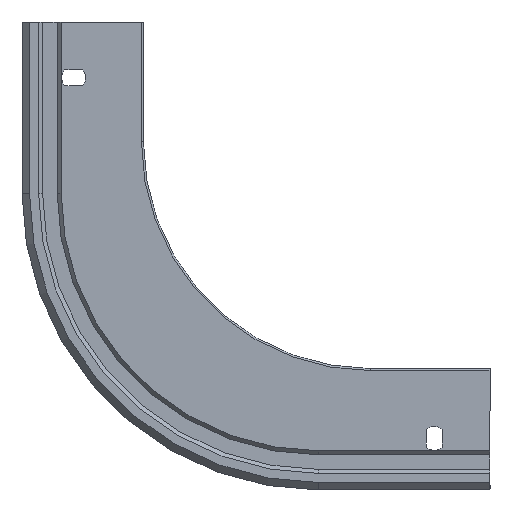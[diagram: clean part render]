
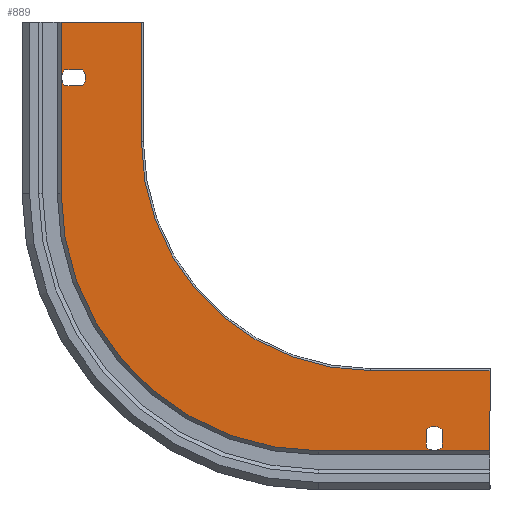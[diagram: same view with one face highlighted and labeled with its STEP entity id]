
A CAD part, left-side view. The second image highlights one B-rep face of the part: STEP entity #889.
In plain terms, the highlighted planar face has unit normal (-1, 0, 0).
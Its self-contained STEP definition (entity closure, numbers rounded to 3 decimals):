
#103 = VERTEX_POINT ( 'NONE', #392 ) ;
#143 = LINE ( 'NONE', #3380, #879 ) ;
#145 = EDGE_LOOP ( 'NONE', ( #5373, #5433, #5398, #489 ) ) ;
#153 = LINE ( 'NONE', #3810, #998 ) ;
#193 = DIRECTION ( 'NONE',  ( 0., 1., 0. ) ) ;
#238 = CARTESIAN_POINT ( 'NONE',  ( 0., 86., 0.331 ) ) ;
#297 = CARTESIAN_POINT ( 'NONE',  ( 0., 175.2, -215.2 ) ) ;
#389 = DIRECTION ( 'NONE',  ( 1., 0., 0. ) ) ;
#392 = CARTESIAN_POINT ( 'NONE',  ( 0., 32., -10.472 ) ) ;
#405 = VERTEX_POINT ( 'NONE', #2943 ) ;
#429 = CARTESIAN_POINT ( 'NONE',  ( 0., 32., 0. ) ) ;
#456 = CARTESIAN_POINT ( 'NONE',  ( 0., 24., -10.472 ) ) ;
#477 = DIRECTION ( 'NONE',  ( 1., 0., 0. ) ) ;
#489 = ORIENTED_EDGE ( 'NONE', *, *, #3196, .T. ) ;
#514 = CIRCLE ( 'NONE', #711, 129.531 ) ;
#515 = VECTOR ( 'NONE', #3443, 1000. ) ;
#540 = AXIS2_PLACEMENT_3D ( 'NONE', #4398, #3953, #5229 ) ;
#569 = DIRECTION ( 'NONE',  ( 1., 0., 0. ) ) ;
#595 = FACE_BOUND ( 'NONE', #4445, .T. ) ;
#599 = CARTESIAN_POINT ( 'NONE',  ( 0., 0., -191.2 ) ) ;
#636 = CARTESIAN_POINT ( 'NONE',  ( 0., 28., -6. ) ) ;
#659 = EDGE_CURVE ( 'NONE', #2829, #103, #3308, .T. ) ;
#681 = LINE ( 'NONE', #4318, #4886 ) ;
#711 = AXIS2_PLACEMENT_3D ( 'NONE', #1598, #3891, #2040 ) ;
#744 = DIRECTION ( 'NONE',  ( 1., 0., 0. ) ) ;
#803 = CARTESIAN_POINT ( 'NONE',  ( 0., 174.2, -215.2 ) ) ;
#819 = VERTEX_POINT ( 'NONE', #5610 ) ;
#841 = EDGE_CURVE ( 'NONE', #405, #2823, #1530, .T. ) ;
#879 = VECTOR ( 'NONE', #1474, 1000. ) ;
#881 = ORIENTED_EDGE ( 'NONE', *, *, #659, .T. ) ;
#889 = ADVANCED_FACE ( 'NONE', ( #595, #5641, #2942 ), #4750, .F. ) ;
#897 = EDGE_CURVE ( 'NONE', #4916, #4741, #143, .T. ) ;
#964 = EDGE_CURVE ( 'NONE', #4460, #3805, #5766, .T. ) ;
#998 = VECTOR ( 'NONE', #1542, 1000. ) ;
#1002 = VERTEX_POINT ( 'NONE', #1659 ) ;
#1027 = EDGE_CURVE ( 'NONE', #1303, #5533, #3414, .T. ) ;
#1093 = VECTOR ( 'NONE', #2554, 1000. ) ;
#1099 = EDGE_CURVE ( 'NONE', #4504, #4916, #2150, .T. ) ;
#1139 = CARTESIAN_POINT ( 'NONE',  ( 0., 204.728, -191.2 ) ) ;
#1143 = CARTESIAN_POINT ( 'NONE',  ( 0., 0., 0. ) ) ;
#1288 = AXIS2_PLACEMENT_3D ( 'NONE', #3146, #2701, #3207 ) ;
#1303 = VERTEX_POINT ( 'NONE', #5154 ) ;
#1377 = EDGE_CURVE ( 'NONE', #5336, #405, #1807, .T. ) ;
#1474 = DIRECTION ( 'NONE',  ( 0., 0., -1. ) ) ;
#1498 = CARTESIAN_POINT ( 'NONE',  ( 0., 215.531, -215.2 ) ) ;
#1530 = LINE ( 'NONE', #2819, #5837 ) ;
#1536 = LINE ( 'NONE', #599, #3455 ) ;
#1542 = DIRECTION ( 'NONE',  ( 0., -1., 0. ) ) ;
#1598 = CARTESIAN_POINT ( 'NONE',  ( 0., 86., -129.2 ) ) ;
#1631 = EDGE_CURVE ( 'NONE', #1002, #819, #5432, .T. ) ;
#1659 = CARTESIAN_POINT ( 'NONE',  ( 0., 213.672, -191.2 ) ) ;
#1807 = CIRCLE ( 'NONE', #5133, 6. ) ;
#1858 = CIRCLE ( 'NONE', #4907, 6. ) ;
#1992 = EDGE_CURVE ( 'NONE', #4741, #3805, #5765, .T. ) ;
#2040 = DIRECTION ( 'NONE',  ( 0., 0., 1. ) ) ;
#2052 = VECTOR ( 'NONE', #2827, 1000. ) ;
#2096 = CARTESIAN_POINT ( 'NONE',  ( 0., 28., -6. ) ) ;
#2120 = ORIENTED_EDGE ( 'NONE', *, *, #964, .T. ) ;
#2122 = ORIENTED_EDGE ( 'NONE', *, *, #5563, .T. ) ;
#2130 = DIRECTION ( 'NONE',  ( 0., 1., 0. ) ) ;
#2150 = CIRCLE ( 'NONE', #1288, 115.2 ) ;
#2201 = CARTESIAN_POINT ( 'NONE',  ( 0., 60., -40. ) ) ;
#2202 = LINE ( 'NONE', #429, #2461 ) ;
#2310 = CARTESIAN_POINT ( 'NONE',  ( 0., 28., -6. ) ) ;
#2350 = CARTESIAN_POINT ( 'NONE',  ( 0., 86., 0.331 ) ) ;
#2420 = EDGE_CURVE ( 'NONE', #5533, #4504, #681, .T. ) ;
#2428 = DIRECTION ( 'NONE',  ( 0., 0., -1. ) ) ;
#2432 = DIRECTION ( 'NONE',  ( 0., 1., 0. ) ) ;
#2454 = DIRECTION ( 'NONE',  ( 0., 0., -1. ) ) ;
#2461 = VECTOR ( 'NONE', #2744, 1000. ) ;
#2465 = ORIENTED_EDGE ( 'NONE', *, *, #897, .F. ) ;
#2554 = DIRECTION ( 'NONE',  ( 0., 0., -1. ) ) ;
#2678 = DIRECTION ( 'NONE',  ( 0., 0., -1. ) ) ;
#2701 = DIRECTION ( 'NONE',  ( -1., 0., 0. ) ) ;
#2706 = AXIS2_PLACEMENT_3D ( 'NONE', #5525, #569, #2428 ) ;
#2715 = CARTESIAN_POINT ( 'NONE',  ( 0., 28., -12. ) ) ;
#2744 = DIRECTION ( 'NONE',  ( 0., 0., 1. ) ) ;
#2746 = AXIS2_PLACEMENT_3D ( 'NONE', #2310, #477, #2678 ) ;
#2793 = DIRECTION ( 'NONE',  ( 0., 0., -1. ) ) ;
#2819 = CARTESIAN_POINT ( 'NONE',  ( 0., 24., 0. ) ) ;
#2823 = VERTEX_POINT ( 'NONE', #456 ) ;
#2827 = DIRECTION ( 'NONE',  ( 0., -1., 0. ) ) ;
#2829 = VERTEX_POINT ( 'NONE', #2715 ) ;
#2887 = DIRECTION ( 'NONE',  ( 0., 0., -1. ) ) ;
#2913 = EDGE_CURVE ( 'NONE', #103, #5336, #2202, .T. ) ;
#2923 = LINE ( 'NONE', #2350, #2052 ) ;
#2942 = FACE_OUTER_BOUND ( 'NONE', #5477, .T. ) ;
#2943 = CARTESIAN_POINT ( 'NONE',  ( 0., 24., -1.528 ) ) ;
#2976 = CARTESIAN_POINT ( 'NONE',  ( 0., 0., -40. ) ) ;
#3100 = VERTEX_POINT ( 'NONE', #238 ) ;
#3146 = CARTESIAN_POINT ( 'NONE',  ( 0., 60., -155.2 ) ) ;
#3196 = EDGE_CURVE ( 'NONE', #3275, #5177, #5695, .T. ) ;
#3207 = DIRECTION ( 'NONE',  ( 0., 0., 1. ) ) ;
#3223 = ORIENTED_EDGE ( 'NONE', *, *, #4198, .F. ) ;
#3275 = VERTEX_POINT ( 'NONE', #5774 ) ;
#3308 = CIRCLE ( 'NONE', #2746, 6. ) ;
#3380 = CARTESIAN_POINT ( 'NONE',  ( 0., 175.2, -155.2 ) ) ;
#3414 = LINE ( 'NONE', #1143, #515 ) ;
#3443 = DIRECTION ( 'NONE',  ( 0., 0., -1. ) ) ;
#3455 = VECTOR ( 'NONE', #2432, 1000. ) ;
#3620 = CARTESIAN_POINT ( 'NONE',  ( 0., 175.2, -155.2 ) ) ;
#3805 = VERTEX_POINT ( 'NONE', #1498 ) ;
#3810 = CARTESIAN_POINT ( 'NONE',  ( 0., 0., -183.2 ) ) ;
#3820 = ORIENTED_EDGE ( 'NONE', *, *, #1377, .T. ) ;
#3829 = DIRECTION ( 'NONE',  ( 0., 0., -1. ) ) ;
#3891 = DIRECTION ( 'NONE',  ( -1., 0., 0. ) ) ;
#3953 = DIRECTION ( 'NONE',  ( 1., 0., 0. ) ) ;
#4012 = CARTESIAN_POINT ( 'NONE',  ( 0., 215.531, -129.2 ) ) ;
#4113 = ORIENTED_EDGE ( 'NONE', *, *, #2913, .T. ) ;
#4198 = EDGE_CURVE ( 'NONE', #3100, #1303, #2923, .T. ) ;
#4247 = ORIENTED_EDGE ( 'NONE', *, *, #1099, .F. ) ;
#4249 = EDGE_CURVE ( 'NONE', #819, #3275, #153, .T. ) ;
#4275 = DIRECTION ( 'NONE',  ( 1., 0., 0. ) ) ;
#4318 = CARTESIAN_POINT ( 'NONE',  ( 0., 0., -40. ) ) ;
#4358 = CARTESIAN_POINT ( 'NONE',  ( 0., 215.531, -129.2 ) ) ;
#4398 = CARTESIAN_POINT ( 'NONE',  ( 0., 209.2, -187.2 ) ) ;
#4445 = EDGE_LOOP ( 'NONE', ( #4113, #3820, #5201, #5392, #881 ) ) ;
#4460 = VERTEX_POINT ( 'NONE', #4012 ) ;
#4504 = VERTEX_POINT ( 'NONE', #2201 ) ;
#4710 = EDGE_CURVE ( 'NONE', #5177, #1002, #1536, .T. ) ;
#4741 = VERTEX_POINT ( 'NONE', #297 ) ;
#4750 = PLANE ( 'NONE',  #2706 ) ;
#4769 = VECTOR ( 'NONE', #2130, 1000. ) ;
#4886 = VECTOR ( 'NONE', #193, 1000. ) ;
#4907 = AXIS2_PLACEMENT_3D ( 'NONE', #2096, #744, #2454 ) ;
#4916 = VERTEX_POINT ( 'NONE', #3620 ) ;
#4979 = CARTESIAN_POINT ( 'NONE',  ( 0., 32., -1.528 ) ) ;
#5019 = CARTESIAN_POINT ( 'NONE',  ( 0., 209.2, -187.2 ) ) ;
#5133 = AXIS2_PLACEMENT_3D ( 'NONE', #636, #4275, #2887 ) ;
#5154 = CARTESIAN_POINT ( 'NONE',  ( 0., 0., 0.331 ) ) ;
#5177 = VERTEX_POINT ( 'NONE', #1139 ) ;
#5201 = ORIENTED_EDGE ( 'NONE', *, *, #841, .T. ) ;
#5229 = DIRECTION ( 'NONE',  ( 0., 0., -1. ) ) ;
#5336 = VERTEX_POINT ( 'NONE', #4979 ) ;
#5373 = ORIENTED_EDGE ( 'NONE', *, *, #4710, .T. ) ;
#5392 = ORIENTED_EDGE ( 'NONE', *, *, #5864, .T. ) ;
#5397 = ORIENTED_EDGE ( 'NONE', *, *, #2420, .F. ) ;
#5398 = ORIENTED_EDGE ( 'NONE', *, *, #4249, .T. ) ;
#5432 = CIRCLE ( 'NONE', #5719, 6. ) ;
#5433 = ORIENTED_EDGE ( 'NONE', *, *, #1631, .T. ) ;
#5459 = ORIENTED_EDGE ( 'NONE', *, *, #1992, .F. ) ;
#5477 = EDGE_LOOP ( 'NONE', ( #5893, #3223, #2122, #2120, #5459, #2465, #4247, #5397 ) ) ;
#5525 = CARTESIAN_POINT ( 'NONE',  ( 0., 0., 0. ) ) ;
#5533 = VERTEX_POINT ( 'NONE', #2976 ) ;
#5563 = EDGE_CURVE ( 'NONE', #3100, #4460, #514, .T. ) ;
#5610 = CARTESIAN_POINT ( 'NONE',  ( 0., 213.672, -183.2 ) ) ;
#5641 = FACE_BOUND ( 'NONE', #145, .T. ) ;
#5695 = CIRCLE ( 'NONE', #540, 6. ) ;
#5719 = AXIS2_PLACEMENT_3D ( 'NONE', #5019, #389, #2793 ) ;
#5765 = LINE ( 'NONE', #803, #4769 ) ;
#5766 = LINE ( 'NONE', #4358, #1093 ) ;
#5774 = CARTESIAN_POINT ( 'NONE',  ( 0., 204.728, -183.2 ) ) ;
#5837 = VECTOR ( 'NONE', #3829, 1000. ) ;
#5864 = EDGE_CURVE ( 'NONE', #2823, #2829, #1858, .T. ) ;
#5893 = ORIENTED_EDGE ( 'NONE', *, *, #1027, .F. ) ;
